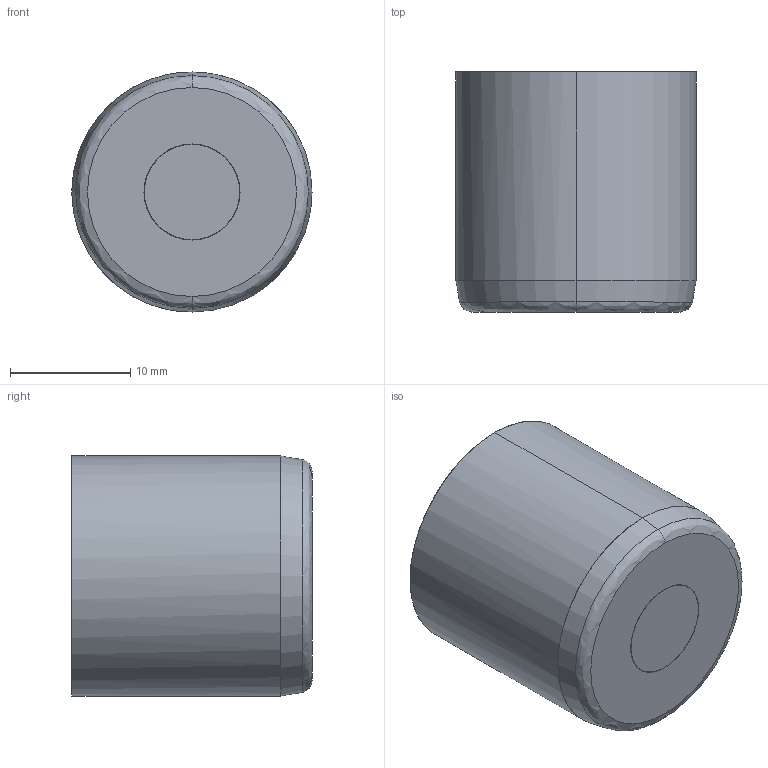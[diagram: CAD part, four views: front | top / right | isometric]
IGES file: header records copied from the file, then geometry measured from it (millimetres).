
Start section: START RECORD GO HERE.
Global section: file name: fa200712-21.igs; native system: DASSAULT SYSTEMES CATIA V5 R20 - www.3ds.com; preprocessor: CATIA Version 5 Release 20 ; author: Utente; organization: NB04-ASUS; date: 20201108.084221; units: millimetre
Bounding box: 20 x 20 x 20 mm (x, y, z)
Surface area: 3299.4 mm2 (no closed solid volume)
Topology: 0 solids, 0 shells, 422 faces, 2116 edges, 2112 vertices
Faces by surface type: revolution 197, plane 144, bspline 81
